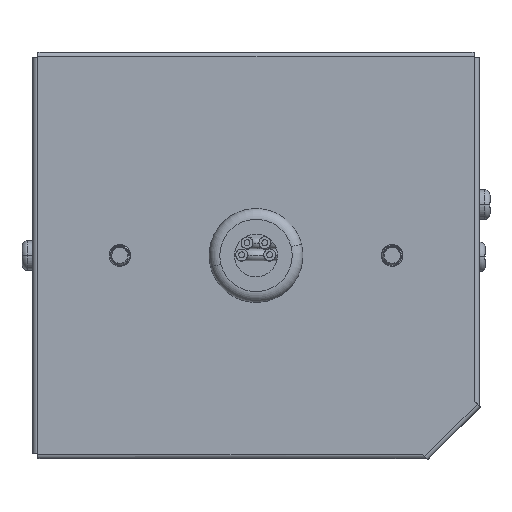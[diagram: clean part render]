
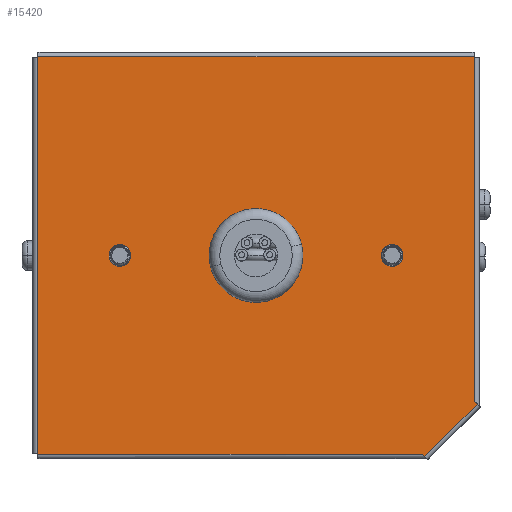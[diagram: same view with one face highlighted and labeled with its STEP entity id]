
A CAD part, top view. The second image highlights one B-rep face of the part: STEP entity #15420.
In plain terms, the highlighted planar face has unit normal (0, 0, 1).
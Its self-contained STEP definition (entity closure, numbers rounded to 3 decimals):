
#9096=DIRECTION('',(0.707,-0.707,0.));
#9097=VECTOR('',#9096,0.566);
#9098=CARTESIAN_POINT('',(31.05,-37.1,0.8));
#9099=LINE('',#9098,#9097);
#9100=DIRECTION('',(0.,-1.,0.));
#9101=VECTOR('',#9100,0.1);
#9102=CARTESIAN_POINT('',(-40.75,-37.,0.8));
#9103=LINE('',#9102,#9101);
#9104=DIRECTION('',(1.,0.,0.));
#9105=VECTOR('',#9104,0.1);
#9106=CARTESIAN_POINT('',(-40.85,-37.,0.8));
#9107=LINE('',#9106,#9105);
#9108=DIRECTION('',(-1.,0.,0.));
#9109=VECTOR('',#9108,0.1);
#9110=CARTESIAN_POINT('',(-40.75,37.,0.8));
#9111=LINE('',#9110,#9109);
#9112=DIRECTION('',(0.,-1.,0.));
#9113=VECTOR('',#9112,0.1);
#9114=CARTESIAN_POINT('',(-40.75,37.1,0.8));
#9115=LINE('',#9114,#9113);
#9116=DIRECTION('',(0.,1.,0.));
#9117=VECTOR('',#9116,0.1);
#9118=CARTESIAN_POINT('',(40.75,37.,0.8));
#9119=LINE('',#9118,#9117);
#9120=DIRECTION('',(-1.,0.,0.));
#9121=VECTOR('',#9120,0.1);
#9122=CARTESIAN_POINT('',(40.85,37.,0.8));
#9123=LINE('',#9122,#9121);
#9124=DIRECTION('',(-0.707,0.707,0.));
#9125=VECTOR('',#9124,0.566);
#9126=CARTESIAN_POINT('',(41.25,-27.7,0.8));
#9127=LINE('',#9126,#9125);
#9128=DIRECTION('',(0.707,0.707,0.));
#9129=VECTOR('',#9128,13.859);
#9130=CARTESIAN_POINT('',(31.45,-37.5,0.8));
#9131=LINE('',#9130,#9129);
#9132=CARTESIAN_POINT('',(25.4,0.,0.8));
#9133=DIRECTION('',(0.,0.,-1.));
#9134=DIRECTION('',(-1.,0.,0.));
#9135=AXIS2_PLACEMENT_3D('',#9132,#9133,#9134);
#9137=CARTESIAN_POINT('',(25.4,0.,0.8));
#9138=DIRECTION('',(0.,0.,-1.));
#9139=DIRECTION('',(1.,0.,0.));
#9140=AXIS2_PLACEMENT_3D('',#9137,#9138,#9139);
#9142=CARTESIAN_POINT('',(25.4,0.,0.8));
#9143=DIRECTION('',(0.,0.,-1.));
#9144=DIRECTION('',(0.,1.,0.));
#9145=AXIS2_PLACEMENT_3D('',#9142,#9143,#9144);
#9147=CARTESIAN_POINT('',(0.,0.,0.8));
#9148=DIRECTION('',(0.,0.,-1.));
#9149=DIRECTION('',(1.,0.,0.));
#9150=AXIS2_PLACEMENT_3D('',#9147,#9148,#9149);
#9152=CARTESIAN_POINT('',(0.,0.,0.8));
#9153=DIRECTION('',(0.,0.,-1.));
#9154=DIRECTION('',(-1.,0.,0.));
#9155=AXIS2_PLACEMENT_3D('',#9152,#9153,#9154);
#9157=CARTESIAN_POINT('',(-25.4,0.,0.8));
#9158=DIRECTION('',(0.,0.,-1.));
#9159=DIRECTION('',(-1.,0.,0.));
#9160=AXIS2_PLACEMENT_3D('',#9157,#9158,#9159);
#9162=CARTESIAN_POINT('',(-25.4,0.,0.8));
#9163=DIRECTION('',(0.,0.,-1.));
#9164=DIRECTION('',(1.,0.,0.));
#9165=AXIS2_PLACEMENT_3D('',#9162,#9163,#9164);
#9167=CARTESIAN_POINT('',(-25.4,0.,0.8));
#9168=DIRECTION('',(0.,0.,-1.));
#9169=DIRECTION('',(0.,1.,0.));
#9170=AXIS2_PLACEMENT_3D('',#9167,#9168,#9169);
#9257=DIRECTION('',(0.,-1.,0.));
#9258=VECTOR('',#9257,64.3);
#9259=CARTESIAN_POINT('',(40.85,37.,0.8));
#9260=LINE('',#9259,#9258);
#9549=DIRECTION('',(1.,0.,0.));
#9550=VECTOR('',#9549,81.5);
#9551=CARTESIAN_POINT('',(-40.75,37.1,0.8));
#9552=LINE('',#9551,#9550);
#9919=DIRECTION('',(0.,1.,0.));
#9920=VECTOR('',#9919,74.);
#9921=CARTESIAN_POINT('',(-40.85,-37.,0.8));
#9922=LINE('',#9921,#9920);
#9961=DIRECTION('',(-1.,0.,0.));
#9962=VECTOR('',#9961,71.8);
#9963=CARTESIAN_POINT('',(31.05,-37.1,0.8));
#9964=LINE('',#9963,#9962);
#12572=CARTESIAN_POINT('',(-23.4,0.,0.8));
#12573=CARTESIAN_POINT('',(-27.4,0.,0.8));
#12574=VERTEX_POINT('',#12572);
#12575=VERTEX_POINT('',#12573);
#12687=CARTESIAN_POINT('',(27.4,0.,0.8));
#12688=VERTEX_POINT('',#12687);
#12689=CARTESIAN_POINT('',(25.4,2.,0.8));
#12690=VERTEX_POINT('',#12689);
#12695=CARTESIAN_POINT('',(23.4,0.,0.8));
#12697=VERTEX_POINT('',#12695);
#12712=CARTESIAN_POINT('',(5.5,0.,0.8));
#12714=VERTEX_POINT('',#12712);
#12730=CARTESIAN_POINT('',(-5.5,0.,0.8));
#12732=VERTEX_POINT('',#12730);
#12745=CARTESIAN_POINT('',(-40.75,37.,0.8));
#12746=CARTESIAN_POINT('',(-40.85,37.,0.8));
#12747=VERTEX_POINT('',#12745);
#12748=VERTEX_POINT('',#12746);
#12761=CARTESIAN_POINT('',(31.45,-37.5,0.8));
#12762=CARTESIAN_POINT('',(41.25,-27.7,0.8));
#12763=VERTEX_POINT('',#12761);
#12764=VERTEX_POINT('',#12762);
#12765=CARTESIAN_POINT('',(40.85,37.,0.8));
#12766=CARTESIAN_POINT('',(40.75,37.,0.8));
#12767=VERTEX_POINT('',#12765);
#12768=VERTEX_POINT('',#12766);
#12771=CARTESIAN_POINT('',(-40.85,-37.,0.8));
#12772=VERTEX_POINT('',#12771);
#12801=CARTESIAN_POINT('',(-40.75,37.1,0.8));
#12802=CARTESIAN_POINT('',(40.75,37.1,0.8));
#12803=VERTEX_POINT('',#12801);
#12804=VERTEX_POINT('',#12802);
#12815=CARTESIAN_POINT('',(-40.75,-37.,0.8));
#12816=VERTEX_POINT('',#12815);
#12821=CARTESIAN_POINT('',(-40.75,-37.1,0.8));
#12822=VERTEX_POINT('',#12821);
#12825=CARTESIAN_POINT('',(31.05,-37.1,0.8));
#12826=VERTEX_POINT('',#12825);
#12835=CARTESIAN_POINT('',(40.85,-27.3,0.8));
#12836=VERTEX_POINT('',#12835);
#12966=CARTESIAN_POINT('',(-25.4,2.,0.8));
#12967=VERTEX_POINT('',#12966);
#15366=CARTESIAN_POINT('',(-40.85,-37.1,0.8));
#15367=DIRECTION('',(0.,0.,1.));
#15368=DIRECTION('',(1.,0.,0.));
#15369=AXIS2_PLACEMENT_3D('',#15366,#15367,#15368);
#15370=PLANE('',#15369);
#15372=ORIENTED_EDGE('',*,*,#15371,.F.);
#15374=ORIENTED_EDGE('',*,*,#15373,.T.);
#15376=ORIENTED_EDGE('',*,*,#15375,.F.);
#15378=ORIENTED_EDGE('',*,*,#15377,.F.);
#15380=ORIENTED_EDGE('',*,*,#15379,.T.);
#15382=ORIENTED_EDGE('',*,*,#15381,.F.);
#15384=ORIENTED_EDGE('',*,*,#15383,.F.);
#15386=ORIENTED_EDGE('',*,*,#15385,.T.);
#15388=ORIENTED_EDGE('',*,*,#15387,.F.);
#15390=ORIENTED_EDGE('',*,*,#15389,.F.);
#15392=ORIENTED_EDGE('',*,*,#15391,.T.);
#15394=ORIENTED_EDGE('',*,*,#15393,.F.);
#15396=ORIENTED_EDGE('',*,*,#15395,.F.);
#15397=EDGE_LOOP('',(#15372,#15374,#15376,#15378,#15380,#15382,#15384,#15386,
#15388,#15390,#15392,#15394,#15396));
#15398=FACE_OUTER_BOUND('',#15397,.F.);
#15400=ORIENTED_EDGE('',*,*,#15399,.F.);
#15402=ORIENTED_EDGE('',*,*,#15401,.F.);
#15403=ORIENTED_EDGE('',*,*,#14853,.F.);
#15404=EDGE_LOOP('',(#15400,#15402,#15403));
#15405=FACE_BOUND('',#15404,.F.);
#15407=ORIENTED_EDGE('',*,*,#15406,.F.);
#15409=ORIENTED_EDGE('',*,*,#15408,.F.);
#15410=EDGE_LOOP('',(#15407,#15409));
#15411=FACE_BOUND('',#15410,.F.);
#15413=ORIENTED_EDGE('',*,*,#15412,.F.);
#15415=ORIENTED_EDGE('',*,*,#15414,.F.);
#15417=ORIENTED_EDGE('',*,*,#15416,.F.);
#15418=EDGE_LOOP('',(#15413,#15415,#15417));
#15419=FACE_BOUND('',#15418,.F.);
#9136=CIRCLE('',#9135,2.);
#9141=CIRCLE('',#9140,2.);
#9146=CIRCLE('',#9145,2.);
#9151=CIRCLE('',#9150,5.5);
#9156=CIRCLE('',#9155,5.5);
#9161=CIRCLE('',#9160,2.);
#9166=CIRCLE('',#9165,2.);
#9171=CIRCLE('',#9170,2.);
#14853=EDGE_CURVE('',#12690,#12688,#9146,.T.);
#15371=EDGE_CURVE('',#12826,#12763,#9099,.T.);
#15373=EDGE_CURVE('',#12826,#12822,#9964,.T.);
#15375=EDGE_CURVE('',#12816,#12822,#9103,.T.);
#15377=EDGE_CURVE('',#12772,#12816,#9107,.T.);
#15379=EDGE_CURVE('',#12772,#12748,#9922,.T.);
#15381=EDGE_CURVE('',#12747,#12748,#9111,.T.);
#15383=EDGE_CURVE('',#12803,#12747,#9115,.T.);
#15385=EDGE_CURVE('',#12803,#12804,#9552,.T.);
#15387=EDGE_CURVE('',#12768,#12804,#9119,.T.);
#15389=EDGE_CURVE('',#12767,#12768,#9123,.T.);
#15391=EDGE_CURVE('',#12767,#12836,#9260,.T.);
#15393=EDGE_CURVE('',#12764,#12836,#9127,.T.);
#15395=EDGE_CURVE('',#12763,#12764,#9131,.T.);
#15399=EDGE_CURVE('',#12697,#12690,#9136,.T.);
#15401=EDGE_CURVE('',#12688,#12697,#9141,.T.);
#15406=EDGE_CURVE('',#12714,#12732,#9151,.T.);
#15408=EDGE_CURVE('',#12732,#12714,#9156,.T.);
#15412=EDGE_CURVE('',#12575,#12967,#9161,.T.);
#15414=EDGE_CURVE('',#12574,#12575,#9166,.T.);
#15416=EDGE_CURVE('',#12967,#12574,#9171,.T.);
#15420=ADVANCED_FACE('',(#15398,#15405,#15411,#15419),#15370,.T.);
